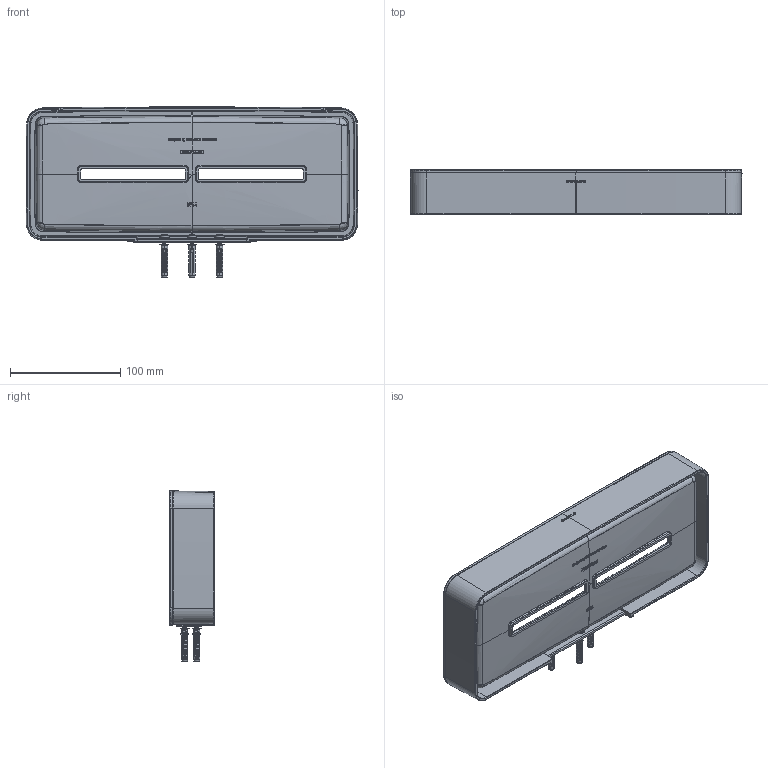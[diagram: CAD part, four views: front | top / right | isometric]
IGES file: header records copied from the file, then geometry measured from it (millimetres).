
Start section: SolidWorks IGES file using analytic representation for surfaces
Global section: file name: G:\Projects\New project\For Marketing\Cosmic\For DXF and IGS\2015-3-6\2510549VW.IGS; native system: SolidWorks 2010; preprocessor: SolidWorks 2010; author: linda; date: 150407.095655; units: millimetre
Bounding box: 301.28 x 40.5 x 154.49 mm (x, y, z)
Surface area: 189409.3 mm2 (no closed solid volume)
Topology: 0 solids, 0 shells, 1482 faces, 20183 edges, 20158 vertices
Faces by surface type: bspline 1104, revolution 378
